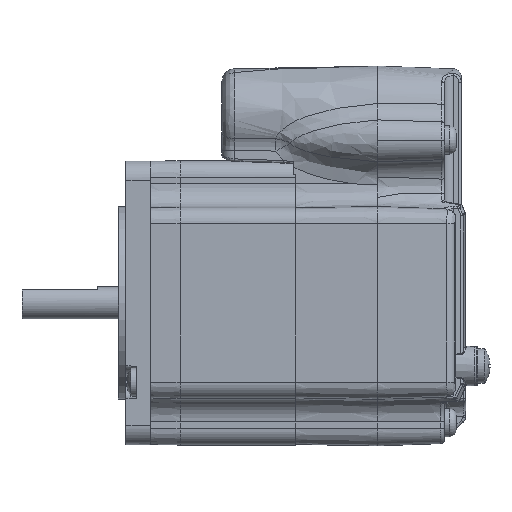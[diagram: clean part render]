
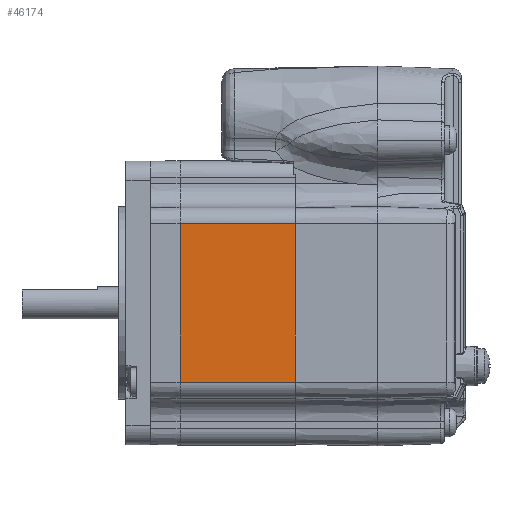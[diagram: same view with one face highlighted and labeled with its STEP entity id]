
A CAD part, left-side view. The second image highlights one B-rep face of the part: STEP entity #46174.
In plain terms, the highlighted planar face has unit normal (-1, 0, 0).
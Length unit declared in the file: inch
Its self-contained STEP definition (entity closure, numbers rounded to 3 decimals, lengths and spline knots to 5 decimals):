
#45151=CARTESIAN_POINT('',(-1.96424,2.56888,-0.67064));
#45152=VERTEX_POINT('',#45151);
#45183=CARTESIAN_POINT('',(-1.96424,2.56888,0.56486));
#45184=VERTEX_POINT('',#45183);
#45185=CARTESIAN_POINT('',(-1.96424,2.56888,0.28689));
#45186=DIRECTION('',(0.,0.,-1.));
#45187=VECTOR('',#45186,1.);
#45188=LINE('',#45185,#45187);
#45189=EDGE_CURVE('',#45184,#45152,#45188,.T.);
#46118=CARTESIAN_POINT('',(-1.96424,1.67113,-0.67064));
#46119=VERTEX_POINT('',#46118);
#46120=CARTESIAN_POINT('',(-1.96424,1.68113,-0.67064));
#46121=DIRECTION('',(0.,1.,0.));
#46122=VECTOR('',#46121,1.);
#46123=LINE('',#46120,#46122);
#46124=EDGE_CURVE('',#46119,#45152,#46123,.T.);
#46151=CARTESIAN_POINT('',(-1.96424,1.67113,0.56486));
#46152=VERTEX_POINT('',#46151);
#46153=CARTESIAN_POINT('',(-1.96424,1.68113,0.56486));
#46154=DIRECTION('',(0.,-1.,0.));
#46155=VECTOR('',#46154,1.);
#46156=LINE('',#46153,#46155);
#46157=EDGE_CURVE('',#45184,#46152,#46156,.T.);
#46158=ORIENTED_EDGE('',*,*,#46157,.F.);
#46159=ORIENTED_EDGE('',*,*,#45189,.T.);
#46160=ORIENTED_EDGE('',*,*,#46124,.F.);
#46161=CARTESIAN_POINT('',(-1.96424,1.67113,0.28689));
#46162=DIRECTION('',(0.,0.,1.));
#46163=VECTOR('',#46162,1.);
#46164=LINE('',#46161,#46163);
#46165=EDGE_CURVE('',#46119,#46152,#46164,.T.);
#46166=ORIENTED_EDGE('',*,*,#46165,.T.);
#46167=EDGE_LOOP('',(#46158,#46159,#46160,#46166));
#46168=FACE_OUTER_BOUND('',#46167,.T.);
#46169=CARTESIAN_POINT('',(-1.96424,1.68113,0.62667));
#46170=DIRECTION('',(-1.,0.,0.));
#46171=DIRECTION('',(0.,0.,1.));
#46172=AXIS2_PLACEMENT_3D('',#46169,#46170,#46171);
#46173=PLANE('',#46172);
#46174=ADVANCED_FACE('',(#46168),#46173,.T.);
